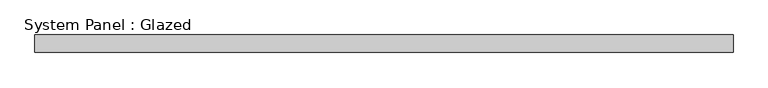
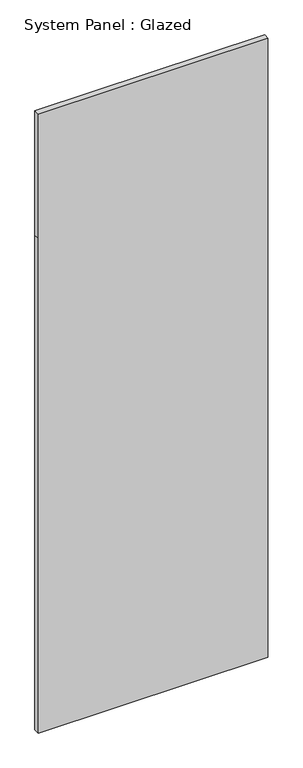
"""IFC4 building model written with IfcOpenShell, lengths in millimetres: plate geometry, System Panel : Glazed."""

import ifcopenshell
import ifcopenshell.guid

model = None  # the IFC model being written
_history = None  # IfcOwnerHistory: only IFC2X3 demands one
_inside = {}  # id of a spatial element -> (the spatial element, [elements in it])
_under = {}  # id of a project, library or spatial element -> (it, [spatial elements below it])
_declared = {}  # id of a project -> (the project, [libraries it declares])
_typed = {}  # id of a type object -> (the type object, [elements of that type])
_made_of = {}  # id of a material, layer set ... -> (it, [elements and type objects made of it])


def new_model(schema):
    """Start an empty IFC model of exactly this schema.

    Asked for "IFC4X3", IfcOpenShell would pick the latest addendum, in which some entities
    have other attributes; the version numbers below select the first issue.
    IFC2X3 requires an IfcOwnerHistory on every rooted entity: one is made here for all.
    """
    global model, _history
    if schema == "IFC4X3":
        model = ifcopenshell.file(schema_version=(4, 3, 0, 0))
    else:
        model = ifcopenshell.file(schema=schema)
    _inside.clear()
    _under.clear()
    _declared.clear()
    _typed.clear()
    _made_of.clear()
    _history = None
    if model.schema == "IFC2X3":
        org = make("IfcOrganization", Name="unknown")
        user = make(
            "IfcPersonAndOrganization",
            ThePerson=make("IfcPerson", FamilyName="unknown"),
            TheOrganization=org,
        )
        app = make(
            "IfcApplication",
            ApplicationDeveloper=org,
            Version="unknown",
            ApplicationFullName="unknown",
            ApplicationIdentifier="unknown",
        )
        _history = make(
            "IfcOwnerHistory",
            OwningUser=user,
            OwningApplication=app,
            ChangeAction="ADDED",
            CreationDate=0,
        )
    return model


def make(cls, **values):
    """One entity of the class cls with the attributes given. An attribute that is None is left unset."""
    return model.create_entity(
        cls, **{name: value for name, value in values.items() if value is not None}
    )


def rooted(cls, **values):
    """An entity with a GlobalId (a new one), such as an element, a storey or a relation."""
    return make(cls, GlobalId=ifcopenshell.guid.new(), OwnerHistory=_history, **values)


def si_unit(unit_type, name, prefix=None):
    """IfcSIUnit, for example si_unit("LENGTHUNIT", "METRE", prefix="MILLI")."""
    return make("IfcSIUnit", UnitType=unit_type, Prefix=prefix, Name=name)


def assignment(units):
    """IfcUnitAssignment: the units of a project."""
    return None if units is None else make("IfcUnitAssignment", Units=units)


def point(xyz):
    """IfcCartesianPoint."""
    return None if xyz is None else make("IfcCartesianPoint", Coordinates=xyz)


def direction(xyz):
    """IfcDirection."""
    return None if xyz is None else make("IfcDirection", DirectionRatios=xyz)


def frame(location, z_axis=None, x_axis=None):
    """IfcAxis2Placement3D, a coordinate frame: its origin and axes. An axis left out is left unset."""
    return make(
        "IfcAxis2Placement3D",
        Location=point(location),
        Axis=direction(z_axis),
        RefDirection=direction(x_axis),
    )


def origin():
    """The frame at (0, 0, 0) with its axes left unset."""
    return frame((0.0, 0.0, 0.0))


def place(relative_to, where):
    """IfcLocalPlacement: puts the frame where relative to a parent placement (None: the world)."""
    return make(
        "IfcLocalPlacement", PlacementRelTo=relative_to, RelativePlacement=where
    )


def context(
    kind, dimensions, precision=None, world=None, true_north=None, identifier=None
):
    """IfcGeometricRepresentationContext, for example the 3D "Model" context."""
    return make(
        "IfcGeometricRepresentationContext",
        ContextIdentifier=identifier,
        ContextType=kind,
        CoordinateSpaceDimension=dimensions,
        Precision=precision,
        WorldCoordinateSystem=world,
        TrueNorth=true_north,
    )


def project(units=None, contexts=None):
    """IfcProject with its units and contexts."""
    return rooted(
        "IfcProject",
        Name="project",
        RepresentationContexts=contexts,
        UnitsInContext=assignment(units),
    )


def spatial(cls, under=None, at=None, **own):
    """A site, building, storey or space (cls), placed at a placement, below another one or the project."""
    s = rooted(cls, ObjectPlacement=at, **own)
    if under is not None:
        _under.setdefault(under.id(), (under, []))[1].append(s)
    return s


def polyline(points):
    """IfcPolyline through the points."""
    return make("IfcPolyline", Points=[point(p) for p in points])


def outline(outer, holes=None, kind="AREA"):
    """IfcArbitraryClosedProfileDef: a profile drawn as a closed curve; with holes, ...WithVoids."""
    if holes is None:
        return make("IfcArbitraryClosedProfileDef", ProfileType=kind, OuterCurve=outer)
    return make(
        "IfcArbitraryProfileDefWithVoids",
        ProfileType=kind,
        OuterCurve=outer,
        InnerCurves=holes,
    )


def extrude(swept, where, along, depth):
    """IfcExtrudedAreaSolid: the profile swept, set in the frame where, extruded along a direction by depth."""
    return make(
        "IfcExtrudedAreaSolid",
        SweptArea=swept,
        Position=where,
        ExtrudedDirection=direction(along),
        Depth=depth,
    )


def shape(context_of_items, identifier, shape_type, items):
    """IfcShapeRepresentation: the items that make up one representation, for example the "Body"."""
    return make(
        "IfcShapeRepresentation",
        ContextOfItems=context_of_items,
        RepresentationIdentifier=identifier,
        RepresentationType=shape_type,
        Items=items,
    )


def source(mapping_origin, context_of_items, identifier, shape_type, items):
    """IfcRepresentationMap: a shape defined once, which mapped items show again and again."""
    return make(
        "IfcRepresentationMap",
        MappingOrigin=mapping_origin,
        MappedRepresentation=shape(context_of_items, identifier, shape_type, items),
    )


def transform(
    local_origin,
    x_axis=None,
    y_axis=None,
    z_axis=None,
    scale=None,
    scale2=None,
    scale3=None,
    uniform=True,
):
    """IfcCartesianTransformationOperator3D, or its non-uniform kind. x_axis, y_axis, z_axis: its Axis1, 2, 3."""
    if uniform:
        return make(
            "IfcCartesianTransformationOperator3D",
            Axis1=direction(x_axis),
            Axis2=direction(y_axis),
            LocalOrigin=point(local_origin),
            Scale=scale,
            Axis3=direction(z_axis),
        )
    return make(
        "IfcCartesianTransformationOperator3DnonUniform",
        Axis1=direction(x_axis),
        Axis2=direction(y_axis),
        LocalOrigin=point(local_origin),
        Scale=scale,
        Axis3=direction(z_axis),
        Scale2=scale2,
        Scale3=scale3,
    )


def mapped(mapping_source, mapping_target):
    """IfcMappedItem: shows the shape of a source again, moved by a transform."""
    return make(
        "IfcMappedItem", MappingSource=mapping_source, MappingTarget=mapping_target
    )


def made_of(thing, what):
    """Note that an element or type object is made of a material, layer set ...; save() writes the relation."""
    if what is not None:
        _made_of.setdefault(what.id(), (what, []))[1].append(thing)
    return thing


def element(
    cls,
    number,
    at=None,
    inside=None,
    cuts=None,
    type_object=None,
    material=None,
    context=None,
    identifier="Body",
    shape_type=None,
    held_by="IfcProductDefinitionShape",
    body=None,
    shapes=None,
    **own,
):
    """One element of the class cls, such as IfcWall. Its Tag is "e" and its number.

    at: its placement. inside: the storey or other place that contains it. cuts: it is an
    opening in that element (IfcRelVoidsElement). A single representation is given by context,
    identifier, shape_type and body (its items); several are given by shapes. held_by: the class
    of the entity that holds the representations. save() writes the other relations.
    """
    e = rooted(cls, Tag="e%d" % number, ObjectPlacement=at, **own)
    if body is not None:
        shapes = [shape(context, identifier, shape_type, body)]
    if shapes is not None:
        e.Representation = make(held_by, Representations=shapes)
    if inside is not None:
        _inside.setdefault(inside.id(), (inside, []))[1].append(e)
    if cuts is not None:
        rooted(
            "IfcRelVoidsElement", RelatingBuildingElement=cuts, RelatedOpeningElement=e
        )
    if type_object is not None:
        _typed.setdefault(type_object.id(), (type_object, []))[1].append(e)
    return made_of(e, material)


def aggregate(whole, parts):
    """IfcRelAggregates: a whole, such as a stair, and the parts it consists of."""
    return rooted("IfcRelAggregates", RelatingObject=whole, RelatedObjects=parts)


def save(model, path):
    """Write the relations noted so far, then the file.

    IfcRelAggregates (storeys below a building ...), IfcRelContainedInSpatialStructure (elements
    in a storey), IfcRelDefinesByType, IfcRelAssociatesMaterial and IfcRelDeclares: one each for
    every whole, place, type object, material and project.
    """
    for whole, parts in _under.values():
        aggregate(whole, parts)
    for where, things in _inside.values():
        rooted(
            "IfcRelContainedInSpatialStructure",
            RelatedElements=things,
            RelatingStructure=where,
        )
    for kind, things in _typed.values():
        rooted("IfcRelDefinesByType", RelatedObjects=things, RelatingType=kind)
    for what, things in _made_of.values():
        rooted("IfcRelAssociatesMaterial", RelatedObjects=things, RelatingMaterial=what)
    for by, libraries in _declared.values():
        rooted("IfcRelDeclares", RelatingContext=by, RelatedDefinitions=libraries)
    model.write(path)


def system_panel_glazed_11b76b90(model_context):
    return source(origin(), model_context, "Body", "SweptSolid", [
        extrude(outline(polyline([(0.0, -498.5714287), (0.0, 498.5714287), (2270.0, 498.5714287), (2840.0, 498.5714287), (2840.0, -498.5714287), (2270.0, -498.5714287), (0.0, -498.5714287)])), frame((0.0, 0.0, 0.0), z_axis=(0.0, 1.0, 0.0), x_axis=(0.0, 0.0, 1.0)), (0.0, 0.0, 1.0), 25.0),
    ])


if __name__ == "__main__":
    model = new_model("IFC4")
    model_context = context("Model", 3, world=origin())
    ifc_project = project(units=[si_unit("LENGTHUNIT", "METRE", prefix="MILLI")], contexts=[model_context])
    site = spatial("IfcSite", under=ifc_project)
    building = spatial("IfcBuilding", under=site)
    placement = place(None, origin())
    system_panel_glazed_shape = system_panel_glazed_11b76b90(model_context)
    element("IfcPlate", 1, ObjectType="System Panel : Glazed", at=placement, inside=building, context=model_context, shape_type="MappedRepresentation", body=[
        mapped(system_panel_glazed_shape, transform((0.0, 0.0, 0.0), x_axis=(1.0, 0.0, 0.0), y_axis=(0.0, 1.0, 0.0), z_axis=(0.0, 0.0, 1.0))),
    ])
    save(model, "model.ifc")
